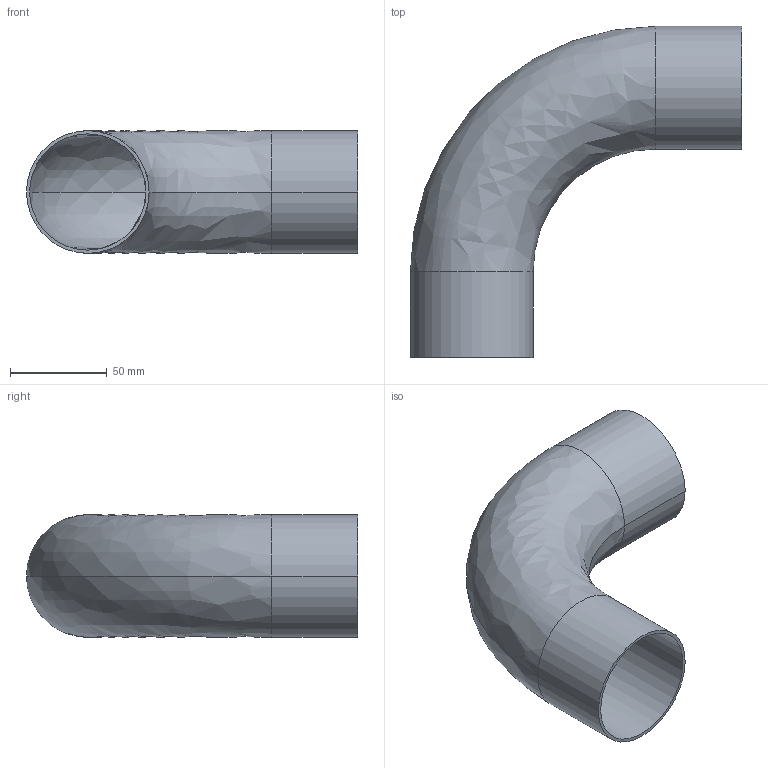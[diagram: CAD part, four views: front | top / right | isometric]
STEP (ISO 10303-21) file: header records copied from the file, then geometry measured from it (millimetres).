
FILE_DESCRIPTION (( 'STEP AP214' ), '1' );
FILE_NAME ('TE2S6L2.5-...STEP', '2016-05-22T10:28:47', ( 'eran' ), ( '' ), 'SwSTEP 2.0', 'SolidWorks 2016', '' );
FILE_SCHEMA (( 'AUTOMOTIVE_DESIGN' ));
Length unit declared in the file: millimetre
Products named in the file (1): TE2S6L2.5-..
Bounding box: 171.45 x 171.45 x 63.5 mm (x, y, z)
Volume: 76470.7 mm3; surface area: 93333 mm2
Topology: 1 solids, 1 shells, 14 faces, 28 edges, 16 vertices
Faces by surface type: cylinder 8, bspline 4, plane 2
Entity records: 450 total; most frequent: CARTESIAN_POINT 119, DIRECTION 70, ORIENTED_EDGE 56, AXIS2_PLACEMENT_3D 31, EDGE_CURVE 28, CIRCLE 20, VERTEX_POINT 16, EDGE_LOOP 16
